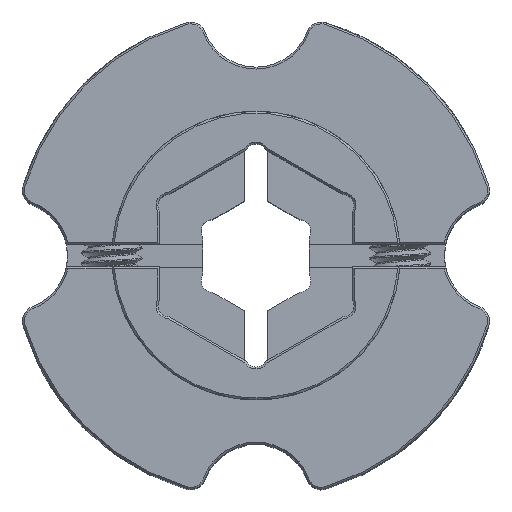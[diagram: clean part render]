
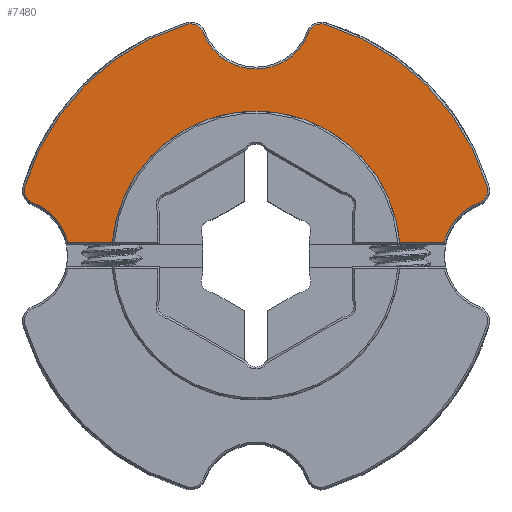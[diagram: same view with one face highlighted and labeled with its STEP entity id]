
A CAD part, top view. The second image highlights one B-rep face of the part: STEP entity #7480.
In plain terms, the highlighted planar face has unit normal (0, 0, 1).
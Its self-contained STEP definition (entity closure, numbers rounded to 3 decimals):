
#122=PLANE('',#8084);
#598=FACE_OUTER_BOUND('',#1046,.T.);
#1046=EDGE_LOOP('',(#6205,#6206,#6207,#6208,#6209,#6210,#6211,#6212,#6213,
#6214,#6215,#6216));
#1208=CIRCLE('',#7879,0.875);
#1305=CIRCLE('',#8082,9.5);
#1306=CIRCLE('',#8085,3.725);
#1307=CIRCLE('',#8086,3.725);
#1308=CIRCLE('',#8087,0.875);
#1309=CIRCLE('',#8088,15.875);
#1310=CIRCLE('',#8089,0.875);
#1311=CIRCLE('',#8090,3.725);
#1312=CIRCLE('',#8091,0.875);
#1313=CIRCLE('',#8092,15.875);
#2237=LINE('',#26906,#2637);
#2238=LINE('',#26908,#2638);
#2637=VECTOR('',#9514,1000.);
#2638=VECTOR('',#9515,1000.);
#3150=VERTEX_POINT('',#24682);
#3151=VERTEX_POINT('',#24683);
#3394=VERTEX_POINT('',#26898);
#3395=VERTEX_POINT('',#26900);
#3396=VERTEX_POINT('',#26904);
#3397=VERTEX_POINT('',#26907);
#3398=VERTEX_POINT('',#26909);
#3399=VERTEX_POINT('',#26911);
#3400=VERTEX_POINT('',#26913);
#3401=VERTEX_POINT('',#26915);
#3402=VERTEX_POINT('',#26917);
#3403=VERTEX_POINT('',#26919);
#4081=EDGE_CURVE('',#3150,#3151,#1208,.T.);
#4495=EDGE_CURVE('',#3394,#3395,#1305,.T.);
#4497=EDGE_CURVE('',#3151,#3396,#1306,.T.);
#4498=EDGE_CURVE('',#3396,#3395,#2237,.T.);
#4499=EDGE_CURVE('',#3394,#3397,#2238,.T.);
#4500=EDGE_CURVE('',#3397,#3398,#1307,.T.);
#4501=EDGE_CURVE('',#3398,#3399,#1308,.T.);
#4502=EDGE_CURVE('',#3399,#3400,#1309,.T.);
#4503=EDGE_CURVE('',#3400,#3401,#1310,.T.);
#4504=EDGE_CURVE('',#3401,#3402,#1311,.T.);
#4505=EDGE_CURVE('',#3402,#3403,#1312,.T.);
#4506=EDGE_CURVE('',#3403,#3150,#1313,.T.);
#6205=ORIENTED_EDGE('',*,*,#4497,.T.);
#6206=ORIENTED_EDGE('',*,*,#4498,.T.);
#6207=ORIENTED_EDGE('',*,*,#4495,.F.);
#6208=ORIENTED_EDGE('',*,*,#4499,.T.);
#6209=ORIENTED_EDGE('',*,*,#4500,.T.);
#6210=ORIENTED_EDGE('',*,*,#4501,.T.);
#6211=ORIENTED_EDGE('',*,*,#4502,.T.);
#6212=ORIENTED_EDGE('',*,*,#4503,.T.);
#6213=ORIENTED_EDGE('',*,*,#4504,.T.);
#6214=ORIENTED_EDGE('',*,*,#4505,.T.);
#6215=ORIENTED_EDGE('',*,*,#4506,.T.);
#6216=ORIENTED_EDGE('',*,*,#4081,.T.);
#7480=ADVANCED_FACE('',(#598),#122,.T.);
#7879=AXIS2_PLACEMENT_3D('',#24684,#8930,#8931);
#8082=AXIS2_PLACEMENT_3D('',#26901,#9506,#9507);
#8084=AXIS2_PLACEMENT_3D('',#26903,#9510,#9511);
#8085=AXIS2_PLACEMENT_3D('',#26905,#9512,#9513);
#8086=AXIS2_PLACEMENT_3D('',#26910,#9516,#9517);
#8087=AXIS2_PLACEMENT_3D('',#26912,#9518,#9519);
#8088=AXIS2_PLACEMENT_3D('',#26914,#9520,#9521);
#8089=AXIS2_PLACEMENT_3D('',#26916,#9522,#9523);
#8090=AXIS2_PLACEMENT_3D('',#26918,#9524,#9525);
#8091=AXIS2_PLACEMENT_3D('',#26920,#9526,#9527);
#8092=AXIS2_PLACEMENT_3D('',#26921,#9528,#9529);
#8930=DIRECTION('center_axis',(0.,0.,
1.));
#8931=DIRECTION('ref_axis',(1.,0.,0.));
#9506=DIRECTION('center_axis',(0.,0.,
1.));
#9507=DIRECTION('ref_axis',(1.,0.,0.));
#9510=DIRECTION('center_axis',(0.,0.,
1.));
#9511=DIRECTION('ref_axis',(1.,0.,0.));
#9512=DIRECTION('center_axis',(0.,0.,
-1.));
#9513=DIRECTION('ref_axis',(1.,0.,0.));
#9514=DIRECTION('',(1.,0.,0.));
#9515=DIRECTION('',(1.,0.,0.));
#9516=DIRECTION('center_axis',(0.,0.,
-1.));
#9517=DIRECTION('ref_axis',(1.,0.,0.));
#9518=DIRECTION('center_axis',(0.,0.,
1.));
#9519=DIRECTION('ref_axis',(1.,0.,0.));
#9520=DIRECTION('center_axis',(0.,0.,
1.));
#9521=DIRECTION('ref_axis',(1.,0.,0.));
#9522=DIRECTION('center_axis',(0.,0.,
1.));
#9523=DIRECTION('ref_axis',(1.,0.,0.));
#9524=DIRECTION('center_axis',(0.,0.,
-1.));
#9525=DIRECTION('ref_axis',(1.,0.,0.));
#9526=DIRECTION('center_axis',(0.,0.,
1.));
#9527=DIRECTION('ref_axis',(1.,0.,0.));
#9528=DIRECTION('center_axis',(0.,0.,
1.));
#9529=DIRECTION('ref_axis',(1.,0.,0.));
#24682=CARTESIAN_POINT('',(-15.208,4.552,31.5));
#24683=CARTESIAN_POINT('',(-14.68,3.483,31.5));
#24684=CARTESIAN_POINT('Origin',(-14.37,4.302,31.5));
#26898=CARTESIAN_POINT('',(9.46,0.875,31.5));
#26900=CARTESIAN_POINT('',(-9.46,0.875,31.5));
#26901=CARTESIAN_POINT('Origin',(0.,0.,
31.5));
#26903=CARTESIAN_POINT('Origin',(0.,0.,
31.5));
#26904=CARTESIAN_POINT('',(-12.379,0.875,31.5));
#26905=CARTESIAN_POINT('Origin',(-16.,0.,31.5));
#26906=CARTESIAN_POINT('',(-9.47,0.875,31.5));
#26907=CARTESIAN_POINT('',(12.379,0.875,31.5));
#26908=CARTESIAN_POINT('',(12.479,0.875,31.5));
#26909=CARTESIAN_POINT('',(14.68,3.483,31.5));
#26910=CARTESIAN_POINT('Origin',(16.,0.,31.5));
#26911=CARTESIAN_POINT('',(15.208,4.552,31.5));
#26912=CARTESIAN_POINT('Origin',(14.37,4.302,31.5));
#26913=CARTESIAN_POINT('',(4.552,15.208,31.5));
#26914=CARTESIAN_POINT('Origin',(0.,0.,
31.5));
#26915=CARTESIAN_POINT('',(3.483,14.68,31.5));
#26916=CARTESIAN_POINT('Origin',(4.302,14.37,31.5));
#26917=CARTESIAN_POINT('',(-3.483,14.68,31.5));
#26918=CARTESIAN_POINT('Origin',(0.,16.,31.5));
#26919=CARTESIAN_POINT('',(-4.552,15.208,31.5));
#26920=CARTESIAN_POINT('Origin',(-4.302,14.37,31.5));
#26921=CARTESIAN_POINT('Origin',(0.,0.,
31.5));
